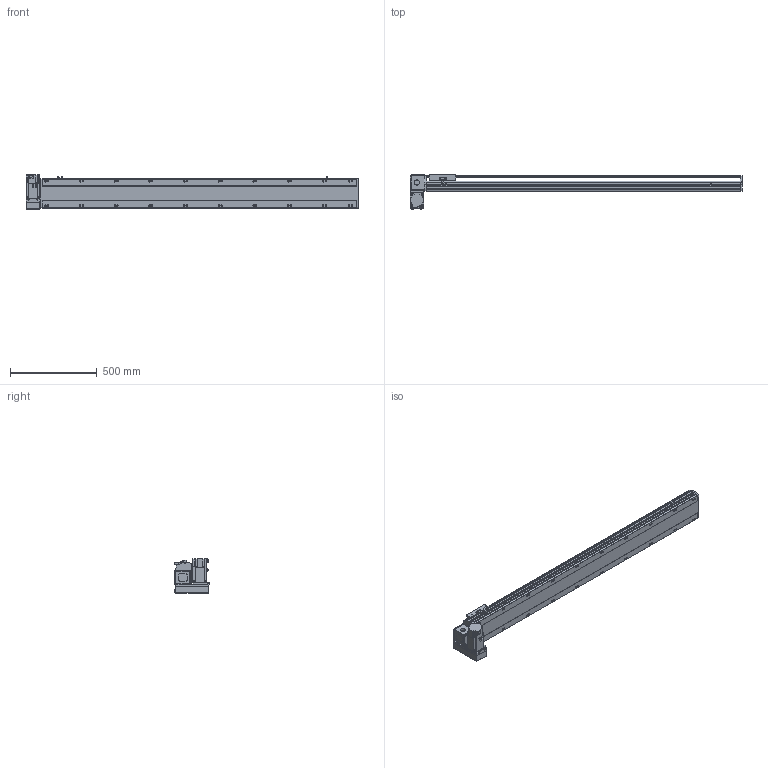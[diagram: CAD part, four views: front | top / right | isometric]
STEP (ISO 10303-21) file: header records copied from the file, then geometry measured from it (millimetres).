
FILE_DESCRIPTION( ( 'STEP AP214' ), '1' );
FILE_NAME( 'x:/temp/worker_4/temp/exporttempdir_2248_336_fAnEg/format_0/PBS170-P40-S1550-LD-T75-C1-N(0).stp', '2022-06-07T07:53:46', ( 'License CC BY-ND 4.0' ), ( 'CADENAS' ), ' ', 'PARTsolutions', ' ' );
FILE_SCHEMA( ( 'AUTOMOTIVE_DESIGN { 1 0 10303 214 1 1 1 1 }' ) );
Length unit declared in the file: millimetre
Products named in the file (7): PBS170-P40-S1550-LD-T75-C1-N(0); _PBS170-S1550()_body; _PBS170T-LD_motors; _T75-p1; _PBS170_sliser; _PBS170_plant; _PBS170_sensor
Assembly tree (8 placements, depth 2):
  PBS170-P40-S1550-LD-T75-C1-N(0)
    _PBS170-S1550()_body
    _PBS170T-LD_motors
    _T75-p1
    _PBS170_sliser
    _PBS170_plant
    _PBS170_sensor  x3
Bounding box: 1913 x 201 x 197.3 mm (x, y, z)
Volume: 14909919.6 mm3; surface area: 1912760.8 mm2
Topology: 8 solids, 8 shells, 1114 faces, 2955 edges, 1926 vertices
Faces by surface type: plane 699, cylinder 355, cone 50, sphere 8, torus 2
Full cylindrical faces by diameter (mm): 3.242 x4, 4 x2, 4.4 x4, 4.5 x6, 4.917 x4, 6 x9, 6.647 x28, 7 x2, 7.5 x4, 8 x8, 8.5 x20, 10 x4, 10.5 x20, 11 x2, 30 x2, 40 x1, 70 x1
Entity records: 41024 total; most frequent: CARTESIAN_POINT 6557, DIRECTION 5440, ORIENTED_EDGE 5148, EDGE_CURVE 2574, AXIS2_PLACEMENT_3D 1897, VERTEX_POINT 1778, LINE 1646, VECTOR 1646
